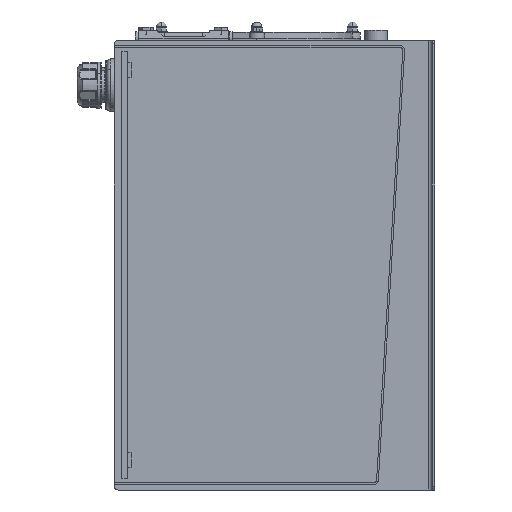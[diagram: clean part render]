
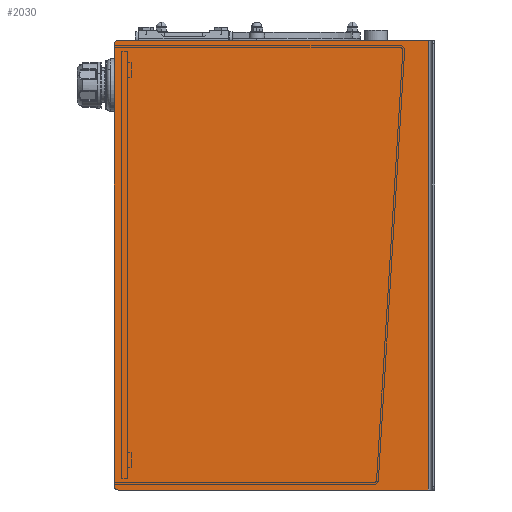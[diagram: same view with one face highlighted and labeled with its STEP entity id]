
A CAD part, left-side view. The second image highlights one B-rep face of the part: STEP entity #2030.
In plain terms, the highlighted planar face has unit normal (-1, 0, 0) as drawn and (0, 0, 1) by its records, which use the part's own axes.
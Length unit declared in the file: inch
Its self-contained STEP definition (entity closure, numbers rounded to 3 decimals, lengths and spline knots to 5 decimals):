
#122 = EDGE_CURVE ( 'NONE', #5945, #18470, #13341, .T. ) ;
#653 = AXIS2_PLACEMENT_3D ( 'NONE', #14372, #19417, #27599 ) ;
#2030 = ADVANCED_FACE ( 'NONE', ( #19413 ), #27489, .F. ) ;
#3140 = CARTESIAN_POINT ( 'NONE',  ( -15., -10.2582, 0. ) ) ;
#3789 = CIRCLE ( 'NONE', #22719, 0.25 ) ;
#4276 = EDGE_LOOP ( 'NONE', ( #20382, #20129, #15092, #21213, #6953, #25241 ) ) ;
#4864 = VECTOR ( 'NONE', #15450, 39.37008 ) ;
#5751 = CARTESIAN_POINT ( 'NONE',  ( 14.75, 10.4375, 0. ) ) ;
#5906 = CARTESIAN_POINT ( 'NONE',  ( 14.75, 10.6875, 0. ) ) ;
#5945 = VERTEX_POINT ( 'NONE', #23000 ) ;
#6953 = ORIENTED_EDGE ( 'NONE', *, *, #28098, .T. ) ;
#6990 = CARTESIAN_POINT ( 'NONE',  ( -15., 10.4375, 0. ) ) ;
#7825 = DIRECTION ( 'NONE',  ( -1., 0., 0. ) ) ;
#8856 = VERTEX_POINT ( 'NONE', #6990 ) ;
#8881 = CARTESIAN_POINT ( 'NONE',  ( -15., -10.6875, 0. ) ) ;
#9756 = DIRECTION ( 'NONE',  ( -1., 0., 0. ) ) ;
#10128 = VECTOR ( 'NONE', #19346, 39.37008 ) ;
#11037 = VECTOR ( 'NONE', #14198, 39.37008 ) ;
#12585 = CARTESIAN_POINT ( 'NONE',  ( -15., 10.6875, 0. ) ) ;
#13214 = EDGE_CURVE ( 'NONE', #18994, #32084, #19497, .T. ) ;
#13341 = LINE ( 'NONE', #32140, #13775 ) ;
#13775 = VECTOR ( 'NONE', #7825, 39.37008 ) ;
#14198 = DIRECTION ( 'NONE',  ( 0., 1., 0. ) ) ;
#14372 = CARTESIAN_POINT ( 'NONE',  ( 0., 0., 0. ) ) ;
#15066 = CIRCLE ( 'NONE', #26612, 0.25 ) ;
#15092 = ORIENTED_EDGE ( 'NONE', *, *, #13214, .T. ) ;
#15450 = DIRECTION ( 'NONE',  ( -1., 0., 0. ) ) ;
#17085 = LINE ( 'NONE', #8881, #10128 ) ;
#17640 = CARTESIAN_POINT ( 'NONE',  ( -14.75, 10.4375, 0. ) ) ;
#17854 = EDGE_CURVE ( 'NONE', #24856, #18994, #3789, .T. ) ;
#18470 = VERTEX_POINT ( 'NONE', #3140 ) ;
#18595 = EDGE_CURVE ( 'NONE', #5945, #24856, #24908, .T. ) ;
#18994 = VERTEX_POINT ( 'NONE', #5906 ) ;
#19346 = DIRECTION ( 'NONE',  ( 0., -1., 0. ) ) ;
#19413 = FACE_OUTER_BOUND ( 'NONE', #4276, .T. ) ;
#19417 = DIRECTION ( 'NONE',  ( 0., 0., -1. ) ) ;
#19497 = LINE ( 'NONE', #12585, #4864 ) ;
#20129 = ORIENTED_EDGE ( 'NONE', *, *, #17854, .T. ) ;
#20382 = ORIENTED_EDGE ( 'NONE', *, *, #18595, .T. ) ;
#20888 = CARTESIAN_POINT ( 'NONE',  ( -14.75, 10.6875, 0. ) ) ;
#21213 = ORIENTED_EDGE ( 'NONE', *, *, #30673, .T. ) ;
#22719 = AXIS2_PLACEMENT_3D ( 'NONE', #5751, #26127, #28977 ) ;
#23000 = CARTESIAN_POINT ( 'NONE',  ( 15., -10.2582, 0. ) ) ;
#24856 = VERTEX_POINT ( 'NONE', #25277 ) ;
#24908 = LINE ( 'NONE', #32845, #11037 ) ;
#25241 = ORIENTED_EDGE ( 'NONE', *, *, #122, .F. ) ;
#25277 = CARTESIAN_POINT ( 'NONE',  ( 15., 10.4375, 0. ) ) ;
#26127 = DIRECTION ( 'NONE',  ( 0., 0., 1. ) ) ;
#26612 = AXIS2_PLACEMENT_3D ( 'NONE', #17640, #30568, #9756 ) ;
#27489 = PLANE ( 'NONE',  #653 ) ;
#27599 = DIRECTION ( 'NONE',  ( -1., 0., 0. ) ) ;
#28098 = EDGE_CURVE ( 'NONE', #8856, #18470, #17085, .T. ) ;
#28977 = DIRECTION ( 'NONE',  ( -1., 0., 0. ) ) ;
#30568 = DIRECTION ( 'NONE',  ( 0., 0., 1. ) ) ;
#30673 = EDGE_CURVE ( 'NONE', #32084, #8856, #15066, .T. ) ;
#32084 = VERTEX_POINT ( 'NONE', #20888 ) ;
#32140 = CARTESIAN_POINT ( 'NONE',  ( 15., -10.2582, 0. ) ) ;
#32845 = CARTESIAN_POINT ( 'NONE',  ( 15., -10.6875, 0. ) ) ;
